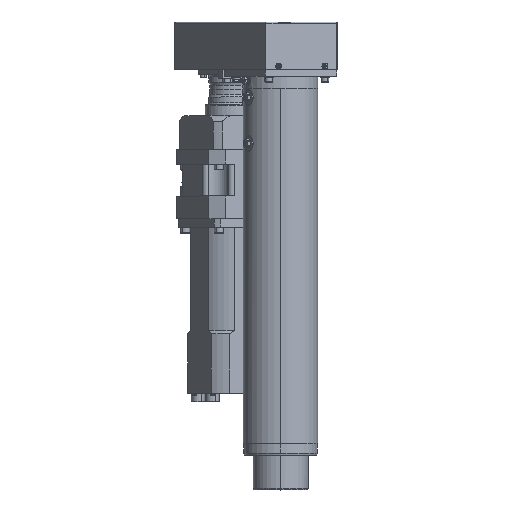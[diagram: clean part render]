
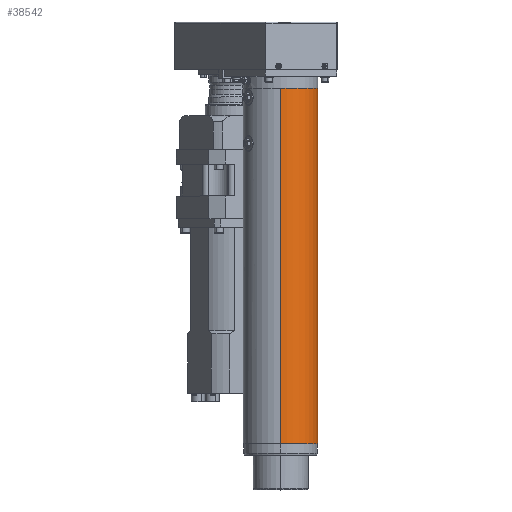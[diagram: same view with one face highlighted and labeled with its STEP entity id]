
A CAD part, top view. The second image highlights one B-rep face of the part: STEP entity #38542.
In plain terms, the highlighted cylindrical face has radius 64.5 mm (diameter 129 mm), a partial arc.
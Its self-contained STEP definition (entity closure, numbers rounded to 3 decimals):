
#319 = CARTESIAN_POINT ( 'NONE',  ( 0., 20., 0. ) ) ;
#2375 = EDGE_LOOP ( 'NONE', ( #34558, #34015, #33953, #33739 ) ) ;
#8041 = LINE ( 'NONE', #28489, #8089 ) ;
#8089 = VECTOR ( 'NONE', #27981, 1000. ) ;
#11029 = DIRECTION ( 'NONE',  ( 0., 0., -1. ) ) ;
#11195 = CARTESIAN_POINT ( 'NONE',  ( 0., 0., 0. ) ) ;
#11751 = DIRECTION ( 'NONE',  ( 0., -1., 0. ) ) ;
#11891 = EDGE_CURVE ( 'NONE', #29725, #21557, #42841, .T. ) ;
#11968 = EDGE_CURVE ( 'NONE', #27089, #29725, #42410, .T. ) ;
#14392 = EDGE_CURVE ( 'NONE', #27089, #30020, #19232, .T. ) ;
#14813 = CYLINDRICAL_SURFACE ( 'NONE', #22583, 64.5 ) ;
#15586 = EDGE_CURVE ( 'NONE', #30020, #21557, #8041, .T. ) ;
#18055 = CARTESIAN_POINT ( 'NONE',  ( 0., 633.5, 64.5 ) ) ;
#19232 = CIRCLE ( 'NONE', #48344, 64.5 ) ;
#21557 = VERTEX_POINT ( 'NONE', #30788 ) ;
#22583 = AXIS2_PLACEMENT_3D ( 'NONE', #11195, #11751, #11029 ) ;
#23882 = CARTESIAN_POINT ( 'NONE',  ( 0., 20., -64.5 ) ) ;
#27089 = VERTEX_POINT ( 'NONE', #37547 ) ;
#27981 = DIRECTION ( 'NONE',  ( 0., -1., 0. ) ) ;
#28489 = CARTESIAN_POINT ( 'NONE',  ( 0., 0., 64.5 ) ) ;
#28897 = FACE_OUTER_BOUND ( 'NONE', #2375, .T. ) ;
#29254 = DIRECTION ( 'NONE',  ( 0., 0., -1. ) ) ;
#29312 = DIRECTION ( 'NONE',  ( 0., -1., 0. ) ) ;
#29322 = CARTESIAN_POINT ( 'NONE',  ( 0., 633.5, 0. ) ) ;
#29725 = VERTEX_POINT ( 'NONE', #23882 ) ;
#30020 = VERTEX_POINT ( 'NONE', #18055 ) ;
#30788 = CARTESIAN_POINT ( 'NONE',  ( 0., 20., 64.5 ) ) ;
#33739 = ORIENTED_EDGE ( 'NONE', *, *, #11968, .F. ) ;
#33953 = ORIENTED_EDGE ( 'NONE', *, *, #11891, .F. ) ;
#34015 = ORIENTED_EDGE ( 'NONE', *, *, #15586, .T. ) ;
#34558 = ORIENTED_EDGE ( 'NONE', *, *, #14392, .T. ) ;
#37547 = CARTESIAN_POINT ( 'NONE',  ( 0., 633.5, -64.5 ) ) ;
#38095 = AXIS2_PLACEMENT_3D ( 'NONE', #319, #49562, #49507 ) ;
#38369 = DIRECTION ( 'NONE',  ( 0., -1., 0. ) ) ;
#38508 = CARTESIAN_POINT ( 'NONE',  ( 0., 0., -64.5 ) ) ;
#38542 = ADVANCED_FACE ( 'NONE', ( #28897 ), #14813, .T. ) ;
#42410 = LINE ( 'NONE', #38508, #42707 ) ;
#42707 = VECTOR ( 'NONE', #38369, 1000. ) ;
#42841 = CIRCLE ( 'NONE', #38095, 64.5 ) ;
#48344 = AXIS2_PLACEMENT_3D ( 'NONE', #29322, #29312, #29254 ) ;
#49507 = DIRECTION ( 'NONE',  ( 0., 0., -1. ) ) ;
#49562 = DIRECTION ( 'NONE',  ( 0., -1., 0. ) ) ;
